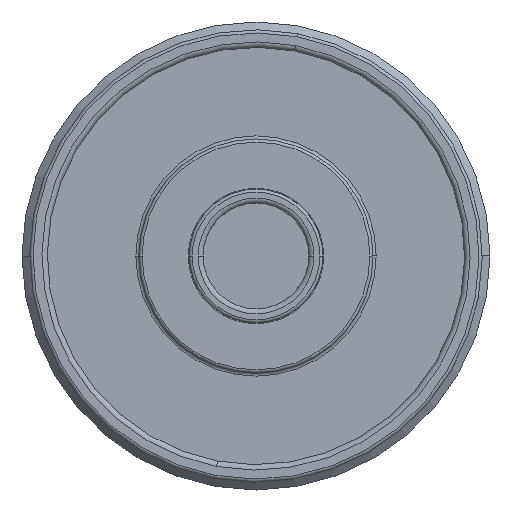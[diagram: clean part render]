
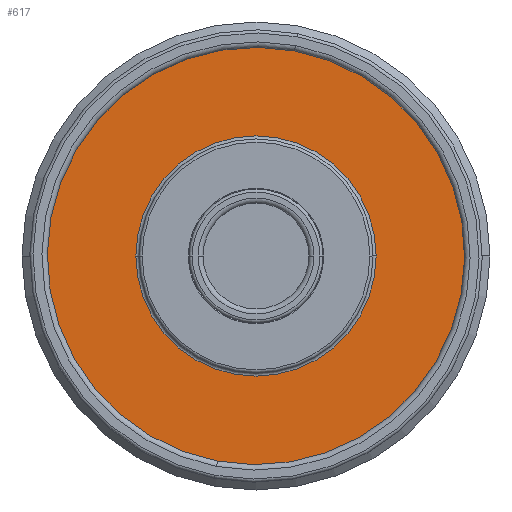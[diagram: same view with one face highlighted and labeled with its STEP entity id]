
A CAD part, front view. The second image highlights one B-rep face of the part: STEP entity #617.
In plain terms, the highlighted planar face has unit normal (0, -1, 0).
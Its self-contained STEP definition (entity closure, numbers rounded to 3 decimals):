
#178=PLANE('',#2837);
#219=FACE_BOUND('',#987,.T.);
#220=FACE_BOUND('',#988,.T.);
#617=ADVANCED_FACE('',(#219,#220),#178,.F.);
#987=EDGE_LOOP('',(#1502,#1503));
#988=EDGE_LOOP('',(#1504,#1505));
#1502=ORIENTED_EDGE('',*,*,#2255,.T.);
#1503=ORIENTED_EDGE('',*,*,#2126,.T.);
#1504=ORIENTED_EDGE('',*,*,#2256,.T.);
#1505=ORIENTED_EDGE('',*,*,#2134,.T.);
#1860=VERTEX_POINT('',#4259);
#1861=VERTEX_POINT('',#4260);
#1868=VERTEX_POINT('',#4277);
#1869=VERTEX_POINT('',#4278);
#2126=EDGE_CURVE('',#1860,#1861,#2448,.T.);
#2134=EDGE_CURVE('',#1868,#1869,#2456,.T.);
#2255=EDGE_CURVE('',#1861,#1860,#2513,.T.);
#2256=EDGE_CURVE('',#1869,#1868,#2514,.T.);
#2448=CIRCLE('',#2736,15.4);
#2456=CIRCLE('',#2746,28.6);
#2513=CIRCLE('',#2835,15.4);
#2514=CIRCLE('',#2836,28.6);
#2736=AXIS2_PLACEMENT_3D('',#4258,#3326,#3327);
#2746=AXIS2_PLACEMENT_3D('',#4276,#3346,#3347);
#2835=AXIS2_PLACEMENT_3D('',#4743,#3564,#3565);
#2836=AXIS2_PLACEMENT_3D('',#4744,#3566,#3567);
#2837=AXIS2_PLACEMENT_3D('',#4745,#3568,#3569);
#3326=DIRECTION('',(0.,1.,0.));
#3327=DIRECTION('',(-1.,0.,0.));
#3346=DIRECTION('',(0.,-1.,0.));
#3347=DIRECTION('',(-1.,0.,0.));
#3564=DIRECTION('',(0.,1.,0.));
#3565=DIRECTION('',(-1.,0.,0.));
#3566=DIRECTION('',(0.,-1.,0.));
#3567=DIRECTION('',(-1.,0.,0.));
#3568=DIRECTION('',(0.,1.,0.));
#3569=DIRECTION('',(1.,0.,0.));
#4258=CARTESIAN_POINT('',(0.,26.6,0.));
#4259=CARTESIAN_POINT('',(15.4,26.6,0.));
#4260=CARTESIAN_POINT('',(-15.4,26.6,0.));
#4276=CARTESIAN_POINT('',(0.,26.6,0.));
#4277=CARTESIAN_POINT('',(28.6,26.6,0.));
#4278=CARTESIAN_POINT('',(-28.6,26.6,0.));
#4743=CARTESIAN_POINT('',(0.,26.6,0.));
#4744=CARTESIAN_POINT('',(0.,26.6,0.));
#4745=CARTESIAN_POINT('',(28.8,26.6,0.));
